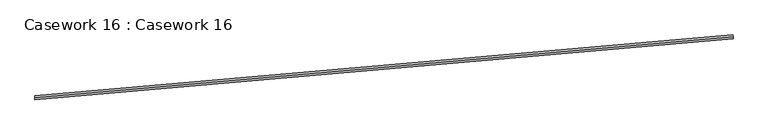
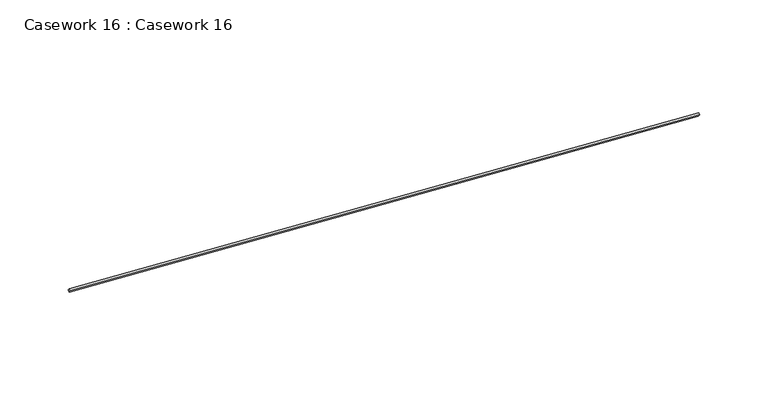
"""IFC4 building model written with IfcOpenShell, lengths in millimetres: furniture geometry, Casework 16 : Casework 16."""

from ifc_helpers import new_model, si_unit, frame, origin, place, context, project, spatial, polyline, outline, extrude, source, transform, mapped, element, save


def casework_16_casework_16_5cc30398(model_context):
    return source(origin(), model_context, "Body", "SweptSolid", [
        extrude(outline(polyline([(0.0, -40.0), (0.0, 0.0), (9111.3767626, 1e-07), (9105.7805029, -37.2033153), (9105.5042384, -40.0), (0.0, -40.0)])), frame((1381.4198744, 3523.454483, 4441.627203), z_axis=(0.0, 0.8134642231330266, 0.581614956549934), x_axis=(-0.9888748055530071, -0.0865153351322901, 0.12100295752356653)), (0.0, 0.0, 1.0), 30.0),
    ])


if __name__ == "__main__":
    model = new_model("IFC4")
    model_context = context("Model", 3, world=origin())
    ifc_project = project(units=[si_unit("LENGTHUNIT", "METRE", prefix="MILLI")], contexts=[model_context])
    site = spatial("IfcSite", under=ifc_project)
    building = spatial("IfcBuilding", under=site)
    placement = place(None, origin())
    casework_16_casework_16_shape = casework_16_casework_16_5cc30398(model_context)
    element("IfcFurniture", 1, ObjectType="Casework 16 : Casework 16", at=placement, inside=building, context=model_context, shape_type="MappedRepresentation", body=[
        mapped(casework_16_casework_16_shape, transform((0.0, 0.0, 0.0), x_axis=(1.0, 0.0, 0.0), y_axis=(0.0, 1.0, 0.0), z_axis=(0.0, 0.0, 1.0))),
    ])
    save(model, "model.ifc")
